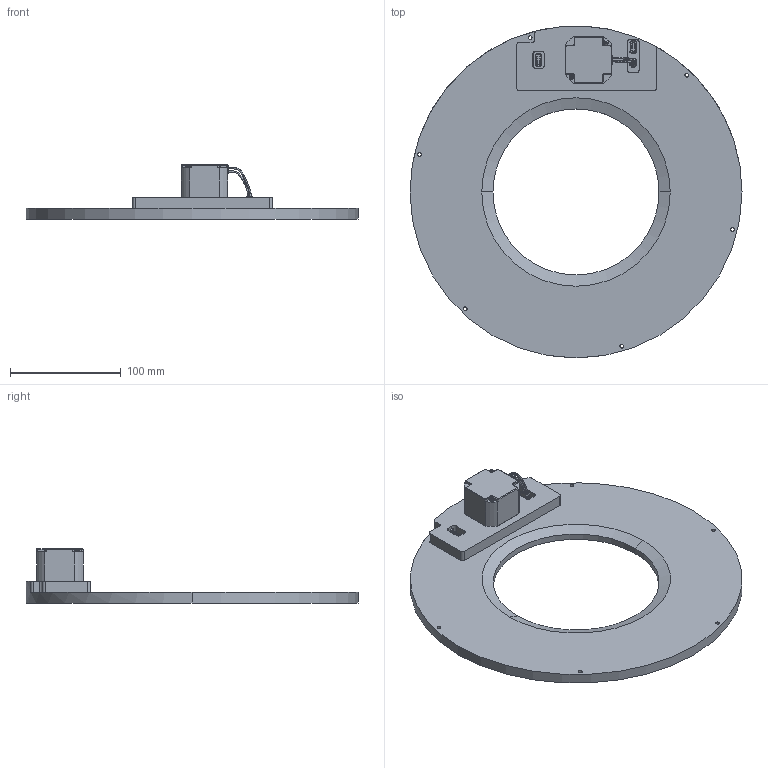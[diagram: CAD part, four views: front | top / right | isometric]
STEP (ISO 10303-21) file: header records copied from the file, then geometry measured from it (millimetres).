
FILE_DESCRIPTION (( 'STEP AP214' ), '1' );
FILE_NAME ('MS150 Lin Eng Mtr.STEP', '2022-02-15T22:54:27', ( '' ), ( '' ), 'SwSTEP 2.0', 'SolidWorks 2020', '' );
FILE_SCHEMA (( 'AUTOMOTIVE_DESIGN' ));
Length unit declared in the file: inch
Products named in the file (22): M80-001XXXX.stp; m80-8280822_asm.stp; M80-012.stp; M80-0130005_ASM.stp; m80-8280822; Lin Eng Custom Mtr W0-4418X-01; pan slot head_ai_SL-PHMS 0.086-56x0.875x0.875-N; M80-1032098.stp; M80-827XX05-PIN.stp; M80-1021898_SEPARATE_ROWS.stp; Y3198.stp; m80-8880405; 150mm Initial Concept_Dumb_Lin Eng Motor; MS150 Motor Wires_Lin Eng Mtr W0-4418X-01; m80-8280442; m80-8880405_asm.stp; MS150 Lin Eng Mtr
Assembly tree (47 placements, depth 5):
  MS150 Lin Eng Mtr
    150mm Initial Concept_Dumb_Lin Eng Motor
    m80-8280822
      m80-8280822_asm.stp
        M80-1021898_SEPARATE_ROWS.stp
        M80-827XX05-PIN.stp  x8
        M80-001XXXX.stp  x2
    m80-8280822
      m80-8280822_asm.stp
        M80-1021898_SEPARATE_ROWS.stp
        M80-827XX05-PIN.stp  x8
        M80-001XXXX.stp  x2
    Lin Eng Custom Mtr W0-4418X-01
    m80-8280442
    m80-8880405
      m80-8880405_asm.stp
        M80-0130005_ASM.stp
          M80-012.stp
          Y3198.stp
        M80-0130005_ASM.stp
          M80-012.stp
          Y3198.stp
        M80-0130005_ASM.stp
          M80-012.stp
          Y3198.stp
        M80-0130005_ASM.stp
          M80-012.stp
          Y3198.stp
        M80-1032098.stp
    MS150 Motor Wires_Lin Eng Mtr W0-4418X-01
    pan slot head_ai_SL-PHMS 0.086-56x0.875x0.875-N  x2
Bounding box: 300 x 300 x 48.86 mm (x, y, z)
Volume: 605374.8 mm3; surface area: 135961.1 mm2
Topology: 46 solids, 46 shells, 2225 faces, 5573 edges, 3450 vertices
Faces by surface type: plane 991, cylinder 644, bspline 268, cone 266, torus 56
Entity records: 44242 total; most frequent: CARTESIAN_POINT 10703, ORIENTED_EDGE 5474, DIRECTION 5366, EDGE_CURVE 2737, AXIS2_PLACEMENT_3D 1858, VERTEX_POINT 1716, VECTOR 1650, LINE 1650
